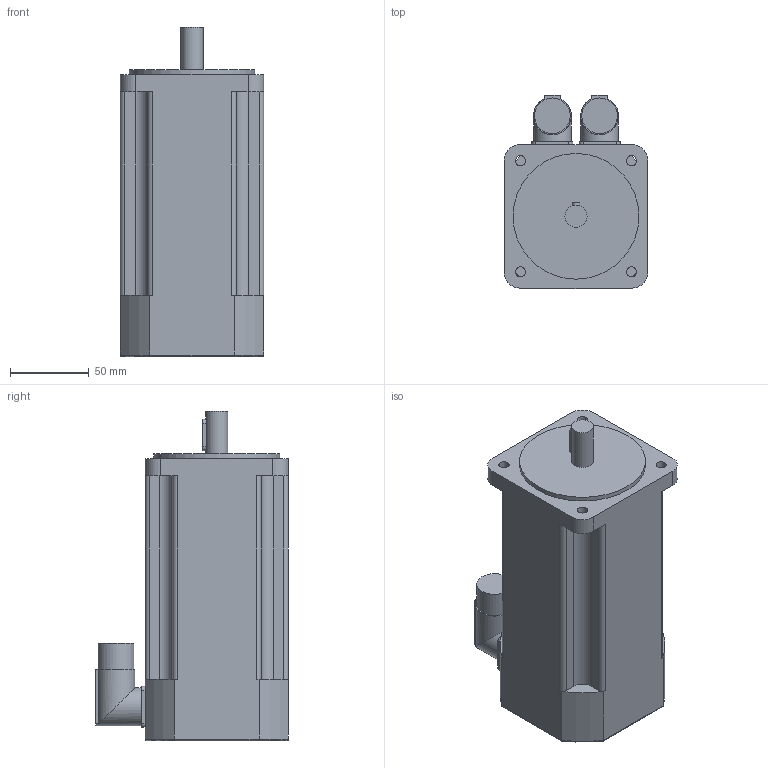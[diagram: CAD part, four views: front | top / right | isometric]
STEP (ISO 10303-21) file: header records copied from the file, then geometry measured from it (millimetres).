
FILE_DESCRIPTION(/* description */ (''),/* implementation_level */ '2;1');
FILE_NAME(/* name */ '\\Lafnas01\disegni\Archivi Lafert\3D\CAD 3D\MODELLI\Assiemi clienti\Serad\Modelli 3D Serad\B56Q\Resolver\Res Without Brake\B56H5Qxx6A052033.ipt.stp',/* time_stamp */ '2015-09-07T10:50:23+02:00',/* author */ ('Pastrello Ylenia'),/* organization */ (''),/* preprocessor_version */ 'ST-DEVELOPER v15.6',/* originating_system */ 'Autodesk Inventor 2015',/* authorisation */ '');
FILE_SCHEMA (('AUTOMOTIVE_DESIGN { 1 0 10303 214 3 1 1 }'));
Length unit declared in the file: millimetre
Products named in the file (1): B56H5Qxx6A052033
Bounding box: 91.3 x 122.8 x 209.5 mm (x, y, z)
Volume: 1390382 mm3; surface area: 90038.5 mm2
Topology: 1 solids, 1 shells, 99 faces, 260 edges, 170 vertices
Faces by surface type: plane 49, cylinder 46, torus 4
Full cylindrical faces by diameter (mm): 6.5 x4, 14 x1, 22.7 x2, 24 x2, 80 x1
Entity records: 3176 total; most frequent: CARTESIAN_POINT 658, DIRECTION 534, ORIENTED_EDGE 500, EDGE_CURVE 250, AXIS2_PLACEMENT_3D 194, VERTEX_POINT 170, LINE 146, VECTOR 146
